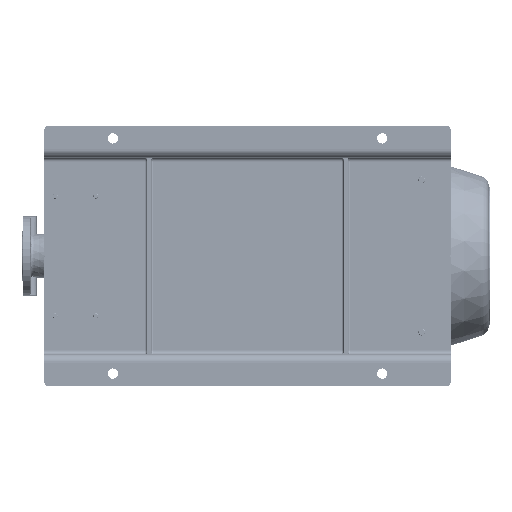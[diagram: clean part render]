
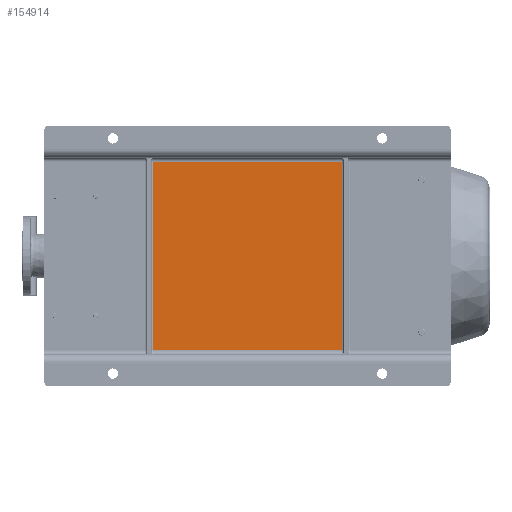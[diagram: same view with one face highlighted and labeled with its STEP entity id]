
A CAD part, front view. The second image highlights one B-rep face of the part: STEP entity #154914.
In plain terms, the highlighted planar face has unit normal (0, -1, 0).
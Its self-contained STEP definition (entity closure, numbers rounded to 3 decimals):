
#13684 = CARTESIAN_POINT ( 'NONE',  ( 525., 65., -695. ) ) ;
#16357 = VERTEX_POINT ( 'NONE', #79949 ) ;
#19188 = CARTESIAN_POINT ( 'NONE',  ( 525., 65., -250. ) ) ;
#22180 = DIRECTION ( 'NONE',  ( 0., 0., -1. ) ) ;
#28814 = DIRECTION ( 'NONE',  ( -1., 0., 0. ) ) ;
#29653 = FACE_OUTER_BOUND ( 'NONE', #165185, .T. ) ;
#35027 = VERTEX_POINT ( 'NONE', #128730 ) ;
#38221 = VECTOR ( 'NONE', #147871, 1000. ) ;
#38961 = ORIENTED_EDGE ( 'NONE', *, *, #147652, .T. ) ;
#41240 = VECTOR ( 'NONE', #46394, 1000. ) ;
#46394 = DIRECTION ( 'NONE',  ( 0., 0., -1. ) ) ;
#55066 = VECTOR ( 'NONE', #28814, 1000. ) ;
#56902 = ORIENTED_EDGE ( 'NONE', *, *, #98975, .T. ) ;
#57162 = DIRECTION ( 'NONE',  ( 1., 0., 0. ) ) ;
#62000 = ORIENTED_EDGE ( 'NONE', *, *, #154513, .T. ) ;
#70213 = CARTESIAN_POINT ( 'NONE',  ( 75., 65., -255. ) ) ;
#77856 = VERTEX_POINT ( 'NONE', #13684 ) ;
#79949 = CARTESIAN_POINT ( 'NONE',  ( 525., 65., -255. ) ) ;
#83128 = LINE ( 'NONE', #70213, #55066 ) ;
#84442 = CARTESIAN_POINT ( 'NONE',  ( 85., 65., -695. ) ) ;
#85765 = PLANE ( 'NONE',  #138362 ) ;
#98975 = EDGE_CURVE ( 'NONE', #77856, #16357, #118454, .T. ) ;
#100343 = CARTESIAN_POINT ( 'NONE',  ( 75., 65., -695. ) ) ;
#102480 = LINE ( 'NONE', #113760, #41240 ) ;
#113760 = CARTESIAN_POINT ( 'NONE',  ( 85., 65., -700. ) ) ;
#114201 = CARTESIAN_POINT ( 'NONE',  ( 75., 65., -950. ) ) ;
#118454 = LINE ( 'NONE', #19188, #38221 ) ;
#119644 = DIRECTION ( 'NONE',  ( 0., -1., 0. ) ) ;
#124724 = VERTEX_POINT ( 'NONE', #84442 ) ;
#128730 = CARTESIAN_POINT ( 'NONE',  ( 85., 65., -255. ) ) ;
#138362 = AXIS2_PLACEMENT_3D ( 'NONE', #114201, #119644, #22180 ) ;
#141690 = LINE ( 'NONE', #100343, #164388 ) ;
#147652 = EDGE_CURVE ( 'NONE', #16357, #35027, #83128, .T. ) ;
#147871 = DIRECTION ( 'NONE',  ( 0., 0., 1. ) ) ;
#154513 = EDGE_CURVE ( 'NONE', #35027, #124724, #102480, .T. ) ;
#154914 = ADVANCED_FACE ( 'NONE', ( #29653 ), #85765, .T. ) ;
#164388 = VECTOR ( 'NONE', #57162, 1000. ) ;
#165185 = EDGE_LOOP ( 'NONE', ( #62000, #168094, #56902, #38961 ) ) ;
#168094 = ORIENTED_EDGE ( 'NONE', *, *, #176879, .T. ) ;
#176879 = EDGE_CURVE ( 'NONE', #124724, #77856, #141690, .T. ) ;
